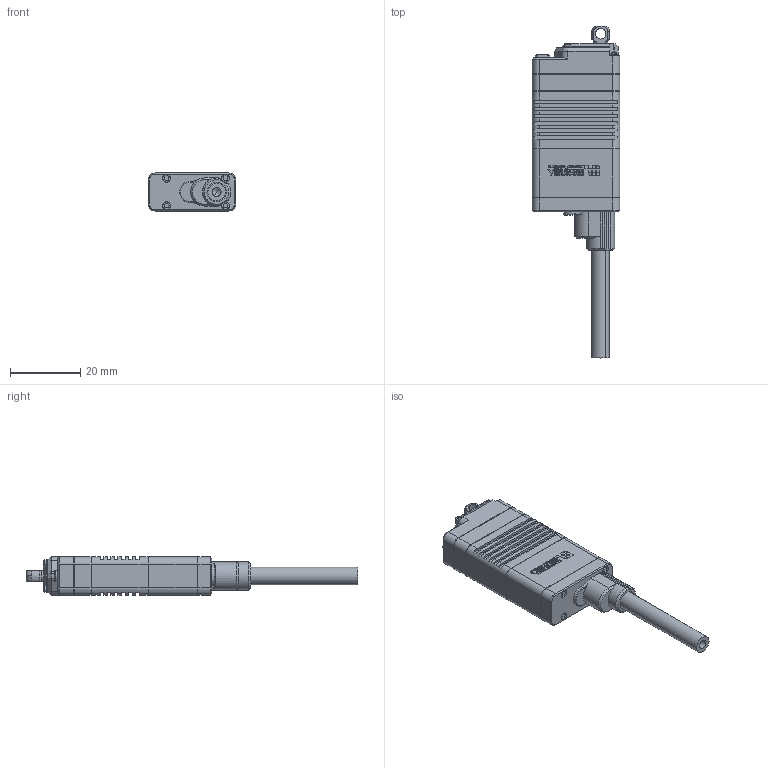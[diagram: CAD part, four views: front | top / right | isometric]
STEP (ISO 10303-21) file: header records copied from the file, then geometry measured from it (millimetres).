
FILE_DESCRIPTION (( 'STEP AP214' ), '1' );
FILE_NAME ('LAS30-0x3D.STEP', '2022-12-28T10:33:01', ( '' ), ( '' ), '', '', '' );
FILE_SCHEMA (( 'AUTOMOTIVE_DESIGN' ));
Length unit declared in the file: millimetre
Products named in the file (4): ACBO-S30_1; LAS30-0x3D; exA820116-015祥凄詩杶奪; LAS30-0x3D^LAS30-0x3D-ACBO-S30
Assembly tree (3 placements, depth 2):
  LAS30-0x3D
    exA820116-015祥凄詩杶奪
    ACBO-S30_1
    LAS30-0x3D^LAS30-0x3D-ACBO-S30
Bounding box: 24.8 x 94.2 x 10.8 mm (x, y, z)
Volume: 13058.5 mm3; surface area: 5858 mm2
Topology: 3 solids, 16 shells, 1666 faces, 4369 edges, 2857 vertices
Faces by surface type: plane 948, bspline 442, cylinder 192, cone 84
Entity records: 61363 total; most frequent: CARTESIAN_POINT 15132, ORIENTED_EDGE 8724, DIRECTION 6496, EDGE_CURVE 4362, LINE 2862, VECTOR 2862, VERTEX_POINT 2857, EDGE_LOOP 1817
